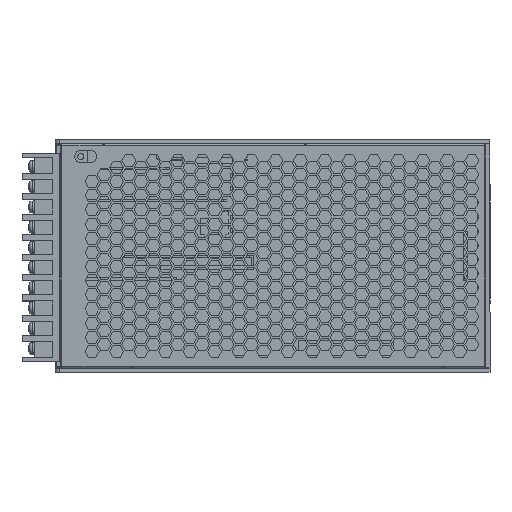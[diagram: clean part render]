
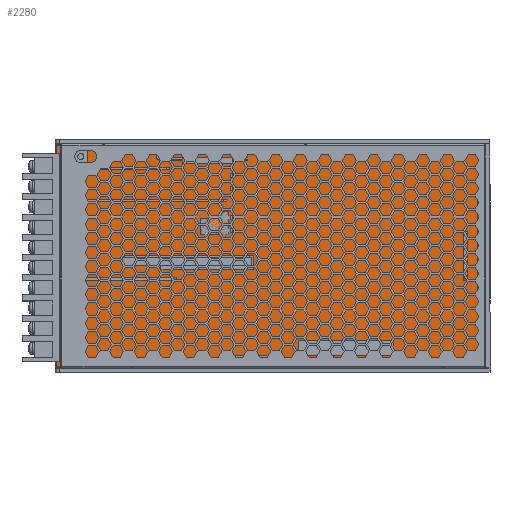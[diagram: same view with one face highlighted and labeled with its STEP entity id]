
A CAD part, top view. The second image highlights one B-rep face of the part: STEP entity #2280.
In plain terms, the highlighted planar face has unit normal (0, 0, 1).
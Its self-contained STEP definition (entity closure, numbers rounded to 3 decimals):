
#290=CARTESIAN_POINT('',(254.759,276.074,
8.6));
#300=DIRECTION('',(0.,0.,1.));
#310=DIRECTION('',(1.,0.,0.));
#320=AXIS2_PLACEMENT_3D('',#290,#300,#310);
#330=PLANE('',#320);
#340=CARTESIAN_POINT('',(254.759,176.792,
8.6));
#350=DIRECTION('',(1.,0.,0.));
#360=VECTOR('',#350,1.);
#370=LINE('',#340,#360);
#380=CARTESIAN_POINT('',(75.578,176.792,
8.6));
#390=VERTEX_POINT('',#380);
#400=CARTESIAN_POINT('',(85.578,176.792,
8.6));
#410=VERTEX_POINT('',#400);
#420=EDGE_CURVE('',#390,#410,#370,.T.);
#430=ORIENTED_EDGE('',*,*,#420,.T.);
#440=CARTESIAN_POINT('',(75.578,276.074,
8.6));
#450=DIRECTION('',(0.,1.,0.));
#460=VECTOR('',#450,1.);
#470=LINE('',#440,#460);
#480=CARTESIAN_POINT('',(75.578,175.292,
8.6));
#490=VERTEX_POINT('',#480);
#500=EDGE_CURVE('',#490,#390,#470,.T.);
#510=ORIENTED_EDGE('',*,*,#500,.T.);
#520=CARTESIAN_POINT('',(254.759,175.292,
8.6));
#530=DIRECTION('',(1.,0.,0.));
#540=VECTOR('',#530,1.);
#550=LINE('',#520,#540);
#560=CARTESIAN_POINT('',(48.578,175.292,
8.6));
#570=VERTEX_POINT('',#560);
#580=EDGE_CURVE('',#570,#490,#550,.T.);
#590=ORIENTED_EDGE('',*,*,#580,.T.);
#600=CARTESIAN_POINT('',(48.578,276.074,
8.6));
#610=DIRECTION('',(0.,-1.,0.));
#620=VECTOR('',#610,1.);
#630=LINE('',#600,#620);
#640=CARTESIAN_POINT('',(48.578,284.292,
8.6));
#650=VERTEX_POINT('',#640);
#660=EDGE_CURVE('',#650,#570,#630,.T.);
#670=ORIENTED_EDGE('',*,*,#660,.T.);
#680=CARTESIAN_POINT('',(254.759,284.292,
8.6));
#690=DIRECTION('',(-1.,0.,0.));
#700=VECTOR('',#690,1.);
#710=LINE('',#680,#700);
#720=CARTESIAN_POINT('',(75.578,284.292,
8.6));
#730=VERTEX_POINT('',#720);
#740=EDGE_CURVE('',#730,#650,#710,.T.);
#750=ORIENTED_EDGE('',*,*,#740,.T.);
#760=CARTESIAN_POINT('',(75.578,276.074,
8.6));
#770=DIRECTION('',(0.,1.,0.));
#780=VECTOR('',#770,1.);
#790=LINE('',#760,#780);
#800=CARTESIAN_POINT('',(75.578,282.792,
8.6));
#810=VERTEX_POINT('',#800);
#820=EDGE_CURVE('',#810,#730,#790,.T.);
#830=ORIENTED_EDGE('',*,*,#820,.T.);
#840=CARTESIAN_POINT('',(254.759,282.792,
8.6));
#850=DIRECTION('',(-1.,0.,0.));
#860=VECTOR('',#850,1.);
#870=LINE('',#840,#860);
#880=CARTESIAN_POINT('',(85.578,282.792,
8.6));
#890=VERTEX_POINT('',#880);
#900=EDGE_CURVE('',#890,#810,#870,.T.);
#910=ORIENTED_EDGE('',*,*,#900,.T.);
#920=CARTESIAN_POINT('',(85.578,276.074,
8.6));
#930=DIRECTION('',(0.,-1.,0.));
#940=VECTOR('',#930,1.);
#950=LINE('',#920,#940);
#960=CARTESIAN_POINT('',(85.578,284.292,
8.6));
#970=VERTEX_POINT('',#960);
#980=EDGE_CURVE('',#970,#890,#950,.T.);
#990=ORIENTED_EDGE('',*,*,#980,.T.);
#1000=CARTESIAN_POINT('',(254.759,284.292,
8.6));
#1010=DIRECTION('',(-1.,0.,0.));
#1020=VECTOR('',#1010,1.);
#1030=LINE('',#1000,#1020);
#1040=CARTESIAN_POINT('',(225.578,284.292,
8.6));
#1050=VERTEX_POINT('',#1040);
#1060=EDGE_CURVE('',#1050,#970,#1030,.T.);
#1070=ORIENTED_EDGE('',*,*,#1060,.T.);
#1080=CARTESIAN_POINT('',(225.578,276.074,
8.6));
#1090=DIRECTION('',(0.,1.,0.));
#1100=VECTOR('',#1090,1.);
#1110=LINE('',#1080,#1100);
#1120=CARTESIAN_POINT('',(225.578,282.792,
8.6));
#1130=VERTEX_POINT('',#1120);
#1140=EDGE_CURVE('',#1130,#1050,#1110,.T.);
#1150=ORIENTED_EDGE('',*,*,#1140,.T.);
#1160=CARTESIAN_POINT('',(254.759,282.792,
8.6));
#1170=DIRECTION('',(-1.,0.,0.));
#1180=VECTOR('',#1170,1.);
#1190=LINE('',#1160,#1180);
#1200=CARTESIAN_POINT('',(235.578,282.792,
8.6));
#1210=VERTEX_POINT('',#1200);
#1220=EDGE_CURVE('',#1210,#1130,#1190,.T.);
#1230=ORIENTED_EDGE('',*,*,#1220,.T.);
#1240=CARTESIAN_POINT('',(235.578,276.074,
8.6));
#1250=DIRECTION('',(0.,1.,0.));
#1260=VECTOR('',#1250,1.);
#1270=LINE('',#1240,#1260);
#1280=CARTESIAN_POINT('',(235.578,284.292,
8.6));
#1290=VERTEX_POINT('',#1280);
#1300=EDGE_CURVE('',#1210,#1290,#1270,.T.);
#1310=ORIENTED_EDGE('',*,*,#1300,.F.);
#1320=CARTESIAN_POINT('',(254.759,284.292,
8.6));
#1330=DIRECTION('',(-1.,0.,0.));
#1340=VECTOR('',#1330,1.);
#1350=LINE('',#1320,#1340);
#1360=CARTESIAN_POINT('',(258.578,284.292,
8.6));
#1370=VERTEX_POINT('',#1360);
#1380=EDGE_CURVE('',#1370,#1290,#1350,.T.);
#1390=ORIENTED_EDGE('',*,*,#1380,.T.);
#1400=CARTESIAN_POINT('',(258.578,276.074,
8.6));
#1410=DIRECTION('',(0.,1.,0.));
#1420=VECTOR('',#1410,1.);
#1430=LINE('',#1400,#1420);
#1440=CARTESIAN_POINT('',(258.578,259.292,
8.6));
#1450=VERTEX_POINT('',#1440);
#1460=EDGE_CURVE('',#1450,#1370,#1430,.T.);
#1470=ORIENTED_EDGE('',*,*,#1460,.T.);
#1480=CARTESIAN_POINT('',(254.759,259.292,
8.6));
#1490=DIRECTION('',(1.,0.,0.));
#1500=VECTOR('',#1490,1.);
#1510=LINE('',#1480,#1500);
#1520=CARTESIAN_POINT('',(257.078,259.292,
8.6));
#1530=VERTEX_POINT('',#1520);
#1540=EDGE_CURVE('',#1530,#1450,#1510,.T.);
#1550=ORIENTED_EDGE('',*,*,#1540,.T.);
#1560=CARTESIAN_POINT('',(257.078,276.074,
8.6));
#1570=DIRECTION('',(0.,1.,0.));
#1580=VECTOR('',#1570,1.);
#1590=LINE('',#1560,#1580);
#1600=CARTESIAN_POINT('',(257.078,209.292,
8.6));
#1610=VERTEX_POINT('',#1600);
#1620=EDGE_CURVE('',#1610,#1530,#1590,.T.);
#1630=ORIENTED_EDGE('',*,*,#1620,.T.);
#1640=CARTESIAN_POINT('',(254.759,209.292,
8.6));
#1650=DIRECTION('',(-1.,0.,0.));
#1660=VECTOR('',#1650,1.);
#1670=LINE('',#1640,#1660);
#1680=CARTESIAN_POINT('',(258.578,209.292,
8.6));
#1690=VERTEX_POINT('',#1680);
#1700=EDGE_CURVE('',#1690,#1610,#1670,.T.);
#1710=ORIENTED_EDGE('',*,*,#1700,.T.);
#1720=CARTESIAN_POINT('',(258.578,276.074,
8.6));
#1730=DIRECTION('',(0.,1.,0.));
#1740=VECTOR('',#1730,1.);
#1750=LINE('',#1720,#1740);
#1760=CARTESIAN_POINT('',(258.578,175.292,
8.6));
#1770=VERTEX_POINT('',#1760);
#1780=EDGE_CURVE('',#1770,#1690,#1750,.T.);
#1790=ORIENTED_EDGE('',*,*,#1780,.T.);
#1800=CARTESIAN_POINT('',(254.759,175.292,
8.6));
#1810=DIRECTION('',(1.,0.,0.));
#1820=VECTOR('',#1810,1.);
#1830=LINE('',#1800,#1820);
#1840=CARTESIAN_POINT('',(235.578,175.292,
8.6));
#1850=VERTEX_POINT('',#1840);
#1860=EDGE_CURVE('',#1850,#1770,#1830,.T.);
#1870=ORIENTED_EDGE('',*,*,#1860,.T.);
#1880=CARTESIAN_POINT('',(235.578,276.074,
8.6));
#1890=DIRECTION('',(0.,-1.,0.));
#1900=VECTOR('',#1890,1.);
#1910=LINE('',#1880,#1900);
#1920=CARTESIAN_POINT('',(235.578,176.792,
8.6));
#1930=VERTEX_POINT('',#1920);
#1940=EDGE_CURVE('',#1930,#1850,#1910,.T.);
#1950=ORIENTED_EDGE('',*,*,#1940,.T.);
#1960=CARTESIAN_POINT('',(254.759,176.792,
8.6));
#1970=DIRECTION('',(1.,0.,0.));
#1980=VECTOR('',#1970,1.);
#1990=LINE('',#1960,#1980);
#2000=CARTESIAN_POINT('',(225.578,176.792,
8.6));
#2010=VERTEX_POINT('',#2000);
#2020=EDGE_CURVE('',#2010,#1930,#1990,.T.);
#2030=ORIENTED_EDGE('',*,*,#2020,.T.);
#2040=CARTESIAN_POINT('',(225.578,276.074,
8.6));
#2050=DIRECTION('',(0.,1.,0.));
#2060=VECTOR('',#2050,1.);
#2070=LINE('',#2040,#2060);
#2080=CARTESIAN_POINT('',(225.578,175.292,
8.6));
#2090=VERTEX_POINT('',#2080);
#2100=EDGE_CURVE('',#2090,#2010,#2070,.T.);
#2110=ORIENTED_EDGE('',*,*,#2100,.T.);
#2120=CARTESIAN_POINT('',(254.759,175.292,
8.6));
#2130=DIRECTION('',(1.,0.,0.));
#2140=VECTOR('',#2130,1.);
#2150=LINE('',#2120,#2140);
#2160=CARTESIAN_POINT('',(85.578,175.292,
8.6));
#2170=VERTEX_POINT('',#2160);
#2180=EDGE_CURVE('',#2170,#2090,#2150,.T.);
#2190=ORIENTED_EDGE('',*,*,#2180,.T.);
#2200=CARTESIAN_POINT('',(85.578,276.074,
8.6));
#2210=DIRECTION('',(0.,1.,0.));
#2220=VECTOR('',#2210,1.);
#2230=LINE('',#2200,#2220);
#2240=EDGE_CURVE('',#2170,#410,#2230,.T.);
#2250=ORIENTED_EDGE('',*,*,#2240,.F.);
#2260=EDGE_LOOP('',(#2250,#2190,#2110,#2030,#1950,#1870,#1790,#1710,
#1630,#1550,#1470,#1390,#1310,#1230,#1150,#1070,#990,#910,#830,#750,#670
,#590,#510,#430));
#2270=FACE_OUTER_BOUND('',#2260,.T.);
#2280=ADVANCED_FACE('',(#2270),#330,.T.);
